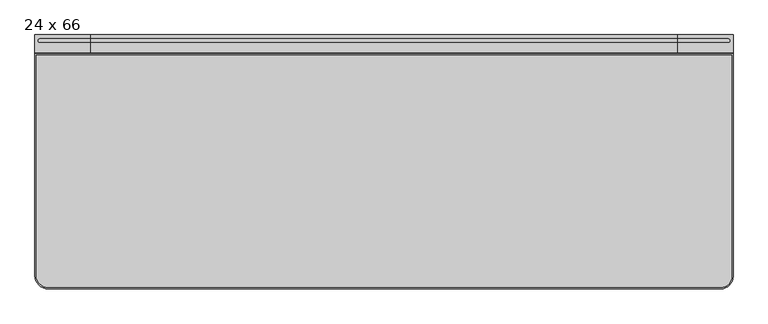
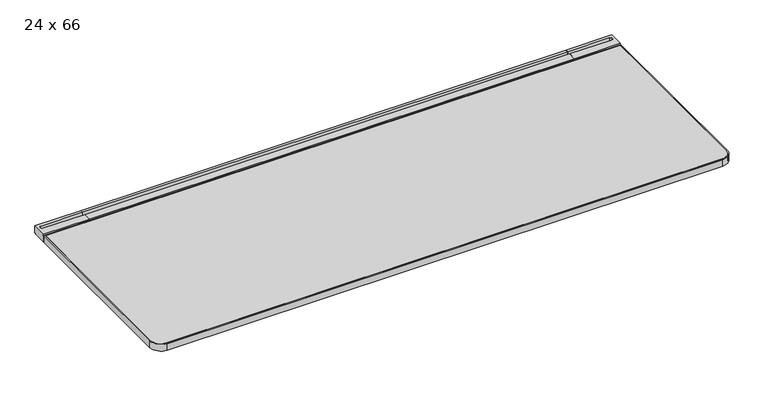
"""IFC4 building model written with IfcOpenShell, lengths in millimetres: furniture geometry, Steelcase - C Scape - Desking - Straight : 24 x 66."""

from ifc_helpers import new_model, si_unit, point, frame, frame_2d, origin, place, context, project, spatial, polyline, circle_curve, trimmed, segment, composite_curve, outline, extrude, faceted_brep, source, transform, mapped, element, save
from ifc_brep_helpers import plane_surface, cylinder_surface, revolved_surface, advanced_brep


def furniture_24_x_66_22182448(model_context):
    return source(origin(), model_context, "Body", "SolidModel", [
        advanced_brep(
        [(1541.8562243, -45.3135132, 703.3768), (1541.8562243, -45.3135132, 722.4268341), (1541.8562243, -42.7750923, 722.4268341), (1541.8562243, -42.7750923, 725.932), (1541.8562243, -19.3290527, 725.932), (1541.8562243, -19.3290527, 713.486), (1541.8562243, -8.5111084, 713.486), (1541.8562243, -8.5111084, 725.932), (1541.8562243, 0.0, 725.932), (1541.8562243, 0.0, 705.1038636), (1541.8562243, -3.2278472, 705.1038636), (1541.8562243, -4.0331902, 703.3768), (1674.8760119, -45.3135132, 703.3768), (1674.8760119, -4.0331902, 703.3768), (1674.8760119, -3.2278472, 705.1038636), (1674.8760119, 0.0, 705.1038636), (1674.8760119, 0.0, 725.932), (1674.8760119, -42.7750923, 725.932), (1674.8760119, -42.7750923, 722.4268341), (1674.8760119, -45.3135132, 722.4268341), (1663.1139392, -8.5111084, 725.932), (1663.1139392, -19.3290527, 725.932), (1663.1139392, -19.3290527, 713.486), (1663.1139392, -8.5111084, 713.486)],
        [
            (0, 1),
            (1, 2),
            (2, 3),
            (3, 4),
            (4, 5),
            (5, 6),
            (6, 7),
            (7, 8),
            (8, 9),
            (9, 10),
            (10, 11),
            (11, 0),
            (12, 13),
            (13, 14),
            (14, 15),
            (15, 16),
            (16, 17),
            (17, 18),
            (18, 19),
            (19, 12),
            (11, 13),
            (12, 0),
            (10, 14),
            (9, 15),
            (8, 16),
            (7, 20),
            (20, 21, circle_curve(frame((1663.1139392, -13.9200806, 725.932), z_axis=(0.0, 0.0, -1.0), x_axis=(-1.0, 0.0, 0.0)), 5.4089722)),
            (21, 4),
            (3, 17),
            (2, 18),
            (1, 19),
            (5, 22),
            (22, 23, circle_curve(frame((1663.1139392, -13.9200806, 713.486), z_axis=(0.0, 0.0, 1.0), x_axis=(-1.0, 0.0, 0.0)), 5.4089722)),
            (23, 6),
            (23, 20),
            (22, 21),
        ],
        [
            plane_surface(frame((1541.8562243, -45.3135132, 703.3768), z_axis=(-1.0, 0.0, 0.0), x_axis=(0.0, 1.0, 0.0))),
            plane_surface(frame((1674.8760119, -45.3135132, 703.3768), z_axis=(1.0, 0.0, 0.0), x_axis=(0.0, -1.0, 0.0))),
            plane_surface(frame((1541.8562243, -45.3135132, 703.3768), z_axis=(0.0, 0.0, -1.0), x_axis=(1.0, 0.0, 0.0))),
            plane_surface(frame((1541.8562243, -4.0331902, 703.3768), z_axis=(0.0, 0.9063077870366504, -0.4226182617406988), x_axis=(1.0, 0.0, 0.0))),
            plane_surface(frame((1541.8562243, -3.2278472, 705.1038636), z_axis=(0.0, 0.0, -1.0), x_axis=(1.0, 0.0, 0.0))),
            plane_surface(frame((1541.8562243, 0.0, 705.1038636), z_axis=(0.0, 1.0, 0.0), x_axis=(1.0, 0.0, 0.0))),
            plane_surface(frame((1541.8562243, 0.0, 725.932), z_axis=(0.0, 0.0, 1.0), x_axis=(1.0, 0.0, 0.0))),
            plane_surface(frame((1541.8562243, -42.7750923, 725.932), z_axis=(0.0, -1.0, 0.0), x_axis=(1.0, 0.0, 0.0))),
            plane_surface(frame((1541.8562243, -42.7750923, 722.4268341), z_axis=(0.0, 0.0, 1.0), x_axis=(1.0, 0.0, 0.0))),
            plane_surface(frame((1541.8562243, -45.3135132, 722.4268341), z_axis=(0.0, -1.0, 0.0), x_axis=(1.0, 0.0, 0.0))),
            plane_surface(frame((1663.1139392, -8.5111084, 713.486), z_axis=(0.0, 0.0, 1.0), x_axis=(-1.0, 0.0, 0.0))),
            plane_surface(frame((1541.8562243, -8.5111084, 731.2180541), z_axis=(0.0, -1.0, 0.0), x_axis=(0.0, 0.0, -1.0))),
            revolved_surface(polyline([(1657.704967, -13.9200806, 725.932), (1657.704967, -13.9200806, 713.486)]), (1663.1139392, -13.9200806, 713.486), (0.0, 0.0, 1.0)),
            plane_surface(frame((1663.1139392, -19.3290527, 731.2180541), z_axis=(0.0, 1.0, 0.0), x_axis=(0.0, 0.0, -1.0))),
        ],
        [
            (0, [[1, 2, 3, 4, 5, 6, 7, 8, 9, 10, 11, 12]]),
            (1, [[13, 14, 15, 16, 17, 18, 19, 20]]),
            (2, [[21, -13, 22, -12]]),
            (3, [[23, -14, -21, -11]]),
            (4, [[24, -15, -23, -10]]),
            (5, [[25, -16, -24, -9]]),
            (6, [[-25, -8, 26, 27, 28, -4, 29, -17]]),
            (7, [[30, -18, -29, -3]]),
            (8, [[31, -19, -30, -2]]),
            (9, [[-22, -20, -31, -1]]),
            (10, [[-6, 32, 33, 34]]),
            (11, [[35, -26, -7, -34]]),
            (12, [[36, -27, -35, -33]]),
            (13, [[-5, -28, -36, -32]]),
        ],
    ),
        faceted_brep([(1655.8252487, -565.0752923, 700.7093833), (1655.8252487, -565.0752923, 703.3768), (1541.8562243, -565.0752923, 703.3768), (1541.8562243, -565.0752923, 679.3263935), (1557.4903818, -565.0752923, 679.3263935), (1560.110924, -565.0752923, 693.4200291), (1641.5501391, -565.0752923, 693.4200291), (1655.8252487, -4.0331902, 700.7093833), (1641.5501391, -4.0331902, 693.4200291), (1560.110924, -4.0331902, 693.4200291), (1548.2046772, -4.0331902, 629.3866), (1541.8562243, -4.0331902, 629.3866), (1541.8562243, -4.0331902, 703.3768), (1655.8252487, -4.0331902, 703.3768), (1555.3251068, -376.5599397, 667.6812472), (1548.2046772, -364.1172546, 629.3866), (1541.8562243, -364.1172546, 629.3866), (1541.8562243, -376.5599397, 667.6812472)], [[[0, 1, 2, 3, 4, 5, 6]], [[7, 8, 9, 10, 11, 12, 13]], [[6, 8, 7, 0]], [[5, 9, 8, 6]], [[9, 5, 4, 14, 15, 10]], [[10, 15, 16, 11]], [[11, 16, 17, 3, 2, 12]], [[1, 13, 12, 2]], [[0, 7, 13, 1]], [[14, 4, 3, 17]], [[17, 16, 15, 14]]]),
        extrude(outline(composite_curve([segment(polyline([(-293.5216187, 657.3775839), (-559.0022133, 680.1371551)]), True, "CONTINUOUS"), segment(trimmed(circle_curve(frame_2d((-558.7581271, 682.9843154)), 2.8576039), [point((-559.0022133, 680.1371551))], [point((-561.5383043, 682.3236226))], False, "CARTESIAN"), True, "CONTINUOUS"), segment(polyline([(-561.5383043, 682.3236226), (-566.0887542, 701.4717905), (-557.8334441, 701.4717905), (-557.8334441, 703.3768), (-442.6683806, 703.3768), (-442.6683806, 696.3917953), (-318.2108611, 696.3917953), (-318.2108611, 703.3768), (-293.5216187, 703.3768), (-293.5216187, 657.3775839)]), True, "CONTINUOUS")], self_intersect=False)), frame((801.624, 0.0, 0.0), z_axis=(1.0, 0.0, 0.0), x_axis=(0.0, 1.0, 0.0)), (0.0, 0.0, 1.0), 73.152),
        advanced_brep(
        [(134.6072876, -45.3135132, 703.3768), (134.6072876, -4.0331902, 703.3768), (134.6072876, -3.2278472, 705.1038636), (134.6072876, 0.0, 705.1038636), (134.6072876, 0.0, 725.932), (134.6072876, -8.5111084, 725.932), (134.6072876, -8.5111084, 713.486), (134.6072876, -19.3290527, 713.486), (134.6072876, -19.3290527, 725.932), (134.6072876, -42.7750923, 725.932), (134.6072876, -42.7750923, 722.4268341), (134.6072876, -45.3135132, 722.4268341), (1.5875, -45.3135132, 703.3768), (1.5875, -45.3135132, 722.4268341), (1.5875, -42.7750923, 722.4268341), (1.5875, -42.7750923, 725.932), (1.5875, 0.0, 725.932), (1.5875, 0.0, 705.1038636), (1.5875, -3.2278472, 705.1038636), (1.5875, -4.0331902, 703.3768), (13.3495728, -19.3290527, 725.932), (13.3495728, -8.5111084, 725.932), (13.3495728, -8.5111084, 713.486), (13.3495728, -19.3290527, 713.486)],
        [
            (0, 1),
            (1, 2),
            (2, 3),
            (3, 4),
            (4, 5),
            (5, 6),
            (6, 7),
            (7, 8),
            (8, 9),
            (9, 10),
            (10, 11),
            (11, 0),
            (12, 13),
            (13, 14),
            (14, 15),
            (15, 16),
            (16, 17),
            (17, 18),
            (18, 19),
            (19, 12),
            (0, 12),
            (19, 1),
            (18, 2),
            (17, 3),
            (16, 4),
            (15, 9),
            (8, 20),
            (20, 21, circle_curve(frame((13.3495728, -13.9200806, 725.932), z_axis=(0.0, 0.0, -1.0), x_axis=(1.0, 0.0, 0.0)), 5.4089722)),
            (21, 5),
            (14, 10),
            (13, 11),
            (6, 22),
            (22, 23, circle_curve(frame((13.3495728, -13.9200806, 713.486), z_axis=(0.0, 0.0, 1.0), x_axis=(1.0, 0.0, 0.0)), 5.4089722)),
            (23, 7),
            (21, 22),
            (20, 23),
        ],
        [
            plane_surface(frame((134.6072876, -45.3135132, 703.3768), z_axis=(1.0, 0.0, 0.0), x_axis=(0.0, 1.0, 0.0))),
            plane_surface(frame((1.5875, -45.3135132, 703.3768), z_axis=(-1.0, 0.0, 0.0), x_axis=(0.0, -1.0, 0.0))),
            plane_surface(frame((134.6072876, -45.3135132, 703.3768), z_axis=(0.0, 0.0, -1.0), x_axis=(-1.0, 0.0, 0.0))),
            plane_surface(frame((134.6072876, -4.0331902, 703.3768), z_axis=(0.0, 0.9063077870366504, -0.4226182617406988), x_axis=(-1.0, 0.0, 0.0))),
            plane_surface(frame((134.6072876, -3.2278472, 705.1038636), z_axis=(0.0, 0.0, -1.0), x_axis=(-1.0, 0.0, 0.0))),
            plane_surface(frame((134.6072876, 0.0, 705.1038636), z_axis=(0.0, 1.0, 0.0), x_axis=(-1.0, 0.0, 0.0))),
            plane_surface(frame((134.6072876, 0.0, 725.932), z_axis=(0.0, 0.0, 1.0), x_axis=(-1.0, 0.0, 0.0))),
            plane_surface(frame((134.6072876, -42.7750923, 725.932), z_axis=(0.0, -1.0, 0.0), x_axis=(-1.0, 0.0, 0.0))),
            plane_surface(frame((134.6072876, -42.7750923, 722.4268341), z_axis=(0.0, 0.0, 1.0), x_axis=(-1.0, 0.0, 0.0))),
            plane_surface(frame((134.6072876, -45.3135132, 722.4268341), z_axis=(0.0, -1.0, 0.0), x_axis=(-1.0, 0.0, 0.0))),
            plane_surface(frame((13.3495728, -8.5111084, 713.486), z_axis=(0.0, 0.0, 1.0), x_axis=(1.0, 0.0, 0.0))),
            plane_surface(frame((134.6072876, -8.5111084, 731.2180541), z_axis=(0.0, -1.0, 0.0), x_axis=(0.0, 0.0, -1.0))),
            revolved_surface(polyline([(18.758545, -13.9200806, 725.932), (18.758545, -13.9200806, 713.486)]), (13.3495728, -13.9200806, 713.486), (0.0, 0.0, 1.0)),
            plane_surface(frame((13.3495728, -19.3290527, 731.2180541), z_axis=(0.0, 1.0, 0.0), x_axis=(0.0, 0.0, -1.0))),
        ],
        [
            (0, [[1, 2, 3, 4, 5, 6, 7, 8, 9, 10, 11, 12]]),
            (1, [[13, 14, 15, 16, 17, 18, 19, 20]]),
            (2, [[-1, 21, -20, 22]]),
            (3, [[-2, -22, -19, 23]]),
            (4, [[-3, -23, -18, 24]]),
            (5, [[-4, -24, -17, 25]]),
            (6, [[-16, 26, -9, 27, 28, 29, -5, -25]]),
            (7, [[-10, -26, -15, 30]]),
            (8, [[-11, -30, -14, 31]]),
            (9, [[-12, -31, -13, -21]]),
            (10, [[32, 33, 34, -7]]),
            (11, [[-32, -6, -29, 35]]),
            (12, [[-33, -35, -28, 36]]),
            (13, [[-34, -36, -27, -8]]),
        ],
    ),
        faceted_brep([(20.6382632, -565.0752923, 700.7093833), (34.9133728, -565.0752923, 693.4200291), (116.3525879, -565.0752923, 693.4200291), (118.9731301, -565.0752923, 679.3263935), (134.6072876, -565.0752923, 679.3263935), (134.6072876, -565.0752923, 703.3768), (20.6382632, -565.0752923, 703.3768), (20.6382632, -4.0331902, 700.7093833), (20.6382632, -4.0331902, 703.3768), (134.6072876, -4.0331902, 703.3768), (134.6072876, -4.0331902, 629.3866), (128.2588347, -4.0331902, 629.3866), (116.3525879, -4.0331902, 693.4200291), (34.9133728, -4.0331902, 693.4200291), (128.2588347, -364.1172546, 629.3866), (121.1384051, -376.5599397, 667.6812472), (134.6072876, -364.1172546, 629.3866), (134.6072876, -376.5599397, 667.6812472)], [[[0, 1, 2, 3, 4, 5, 6]], [[7, 8, 9, 10, 11, 12, 13]], [[1, 0, 7, 13]], [[2, 1, 13, 12]], [[12, 11, 14, 15, 3, 2]], [[11, 10, 16, 14]], [[10, 9, 5, 4, 17, 16]], [[6, 5, 9, 8]], [[0, 6, 8, 7]], [[15, 17, 4, 3]], [[17, 15, 14, 16]]]),
        extrude(outline(polyline([(-8.5111084, 725.932), (0.0, 725.932), (0.0, 705.1038636), (-3.2278472, 705.1038636), (-4.0331902, 703.3768), (-45.3135132, 703.3768), (-45.3135132, 722.4268341), (-42.7750923, 722.4268341), (-42.7750923, 725.932), (-19.3290527, 725.932), (-19.3290527, 713.486), (-8.5111084, 713.486), (-8.5111084, 725.932)])), frame((134.6072876, 0.0, 0.0), z_axis=(1.0, 0.0, 0.0), x_axis=(0.0, 1.0, 0.0)), (0.0, 0.0, 1.0), 1407.2489367),
        extrude(outline(polyline([(134.6072876, -293.5216187), (134.6072876, -4.0331902), (1541.8562243, -4.0331902), (1541.8562243, -293.5216187), (134.6072876, -293.5216187)])), frame((0.0, 0.0, 629.3866), z_axis=(0.0, 0.0, 1.0), x_axis=(1.0, 0.0, 0.0)), (0.0, 0.0, 1.0), 73.9902),
        advanced_brep(
        [(4.6355, -48.3660689, 723.9), (4.6355, -577.85, 723.9), (33.3375, -606.5490234, 723.9), (1645.0737019, -606.5490234, 723.9), (1671.8273608, -579.7953645, 723.9), (1671.8273608, -48.3660689, 723.9), (4.6355, -48.3660689, 703.3768), (1671.8273608, -48.3660689, 703.3768), (1671.8273608, -579.7953645, 703.3768), (1645.0737019, -606.5490234, 703.3768), (33.3375, -606.5490234, 703.3768), (4.6384766, -577.85, 703.3768)],
        [
            (0, 1),
            (1, 2, circle_curve(frame((33.3375, -577.85, 723.9), z_axis=(0.0, 0.0, 1.0), x_axis=(1.0, 0.0, 0.0)), 28.6990234)),
            (2, 3),
            (3, 4, circle_curve(frame((1645.0737019, -579.7953645, 723.9), z_axis=(0.0, 0.0, 1.0), x_axis=(1.0, 0.0, 0.0)), 26.7536589)),
            (4, 5),
            (5, 0),
            (6, 7),
            (7, 8),
            (8, 9, circle_curve(frame((1645.0737019, -579.7953645, 703.3768), z_axis=(0.0, 0.0, -1.0), x_axis=(1.0, 0.0, 0.0)), 26.7536589)),
            (9, 10),
            (10, 11, circle_curve(frame((33.3375, -577.85, 703.3768), z_axis=(0.0, 0.0, -1.0), x_axis=(1.0, 0.0, 0.0)), 28.6990234)),
            (11, 6),
            (0, 6),
            (11, 1),
            (10, 2),
            (9, 3),
            (8, 4),
            (7, 5),
        ],
        [
            plane_surface(frame((4.6355, -48.3660689, 723.9), z_axis=(0.0, 0.0, 1.0), x_axis=(0.0, -1.0, 0.0))),
            plane_surface(frame((4.6355, -48.3660689, 703.3768), z_axis=(0.0, 0.0, -1.0), x_axis=(0.0, 1.0, 0.0))),
            plane_surface(frame((4.6355, -48.3660689, 723.9), z_axis=(-1.0, 0.0, 0.0), x_axis=(0.0, 0.0, -1.0))),
            cylinder_surface(frame((33.3375, -577.85, 703.3768), z_axis=(0.0, 0.0, 1.0), x_axis=(1.0, 0.0, 0.0)), 28.6990234),
            plane_surface(frame((33.3375, -606.5490234, 723.9), z_axis=(0.0, -1.0, 0.0), x_axis=(0.0, 0.0, -1.0))),
            cylinder_surface(frame((1645.0737019, -579.7953645, 703.3768), z_axis=(0.0, 0.0, 1.0), x_axis=(1.0, 0.0, 0.0)), 26.7536589),
            plane_surface(frame((1671.8273608, -579.7953645, 723.9), z_axis=(1.0, 0.0, 0.0), x_axis=(0.0, 0.0, -1.0))),
            plane_surface(frame((1671.8273608, -48.3660689, 723.9), z_axis=(0.0, 1.0, 0.0), x_axis=(0.0, 0.0, -1.0))),
        ],
        [
            (0, [[1, 2, 3, 4, 5, 6]]),
            (1, [[7, 8, 9, 10, 11, 12]]),
            (2, [[-1, 13, -12, 14]]),
            (3, [[-2, -14, -11, 15]]),
            (4, [[-3, -15, -10, 16]]),
            (5, [[-4, -16, -9, 17]]),
            (6, [[-5, -17, -8, 18]]),
            (7, [[-6, -18, -7, -13]]),
        ],
    ),
        extrude(outline(composite_curve([segment(trimmed(circle_curve(frame_2d((33.3375, -577.85)), 31.75), [point((33.3375, -609.6))], [point((1.5875, -577.85))], False, "CARTESIAN"), True, "CONTINUOUS"), segment(polyline([(1.5875, -577.85), (1.5875, -45.3150923), (1674.876, -45.3150923), (1674.876, -579.7250374)]), True, "CONTINUOUS"), segment(trimmed(circle_curve(frame_2d((1645.0010374, -579.7250374)), 29.8749626), [point((1674.876, -579.7250374))], [point((1645.0010374, -609.6))], False, "CARTESIAN"), True, "CONTINUOUS"), segment(polyline([(1645.0010374, -609.6), (33.3375, -609.6)]), True, "CONTINUOUS")], self_intersect=False), holes=[composite_curve([segment(polyline([(1671.8250234, -48.3660689), (4.6384766, -48.3660689), (4.6384766, -577.85)]), True, "CONTINUOUS"), segment(trimmed(circle_curve(frame_2d((33.3375, -577.85)), 28.6990234), [point((4.6384766, -577.85))], [point((33.3375, -606.5490234))], True, "CARTESIAN"), True, "CONTINUOUS"), segment(polyline([(33.3375, -606.5490234), (1645.0010374, -606.5490234)]), True, "CONTINUOUS"), segment(trimmed(circle_curve(frame_2d((1645.0010374, -579.7250374)), 26.8239861), [point((1645.0010374, -606.5490234))], [point((1671.8250234, -579.7250374))], True, "CARTESIAN"), True, "CONTINUOUS"), segment(polyline([(1671.8250234, -579.7250374), (1671.8250234, -48.3660689)]), True, "CONTINUOUS")], self_intersect=False)]), frame((0.0, 0.0, 703.3768), z_axis=(0.0, 0.0, 1.0), x_axis=(1.0, 0.0, 0.0)), (0.0, 0.0, 1.0), 20.5232),
    ])


if __name__ == "__main__":
    model = new_model("IFC4")
    model_context = context("Model", 3, world=origin())
    ifc_project = project(units=[si_unit("LENGTHUNIT", "METRE", prefix="MILLI")], contexts=[model_context])
    site = spatial("IfcSite", under=ifc_project)
    building = spatial("IfcBuilding", under=site)
    placement = place(None, origin())
    furniture_24_x_66_shape = furniture_24_x_66_22182448(model_context)
    element("IfcFurniture", 1, ObjectType="Steelcase - C Scape - Desking - Straight : 24 x 66", at=placement, inside=building, context=model_context, shape_type="MappedRepresentation", body=[
        mapped(furniture_24_x_66_shape, transform((0.0, 0.0, 0.0), x_axis=(1.0, 0.0, 0.0), y_axis=(0.0, 1.0, 0.0), z_axis=(0.0, 0.0, 1.0))),
    ])
    save(model, "model.ifc")
